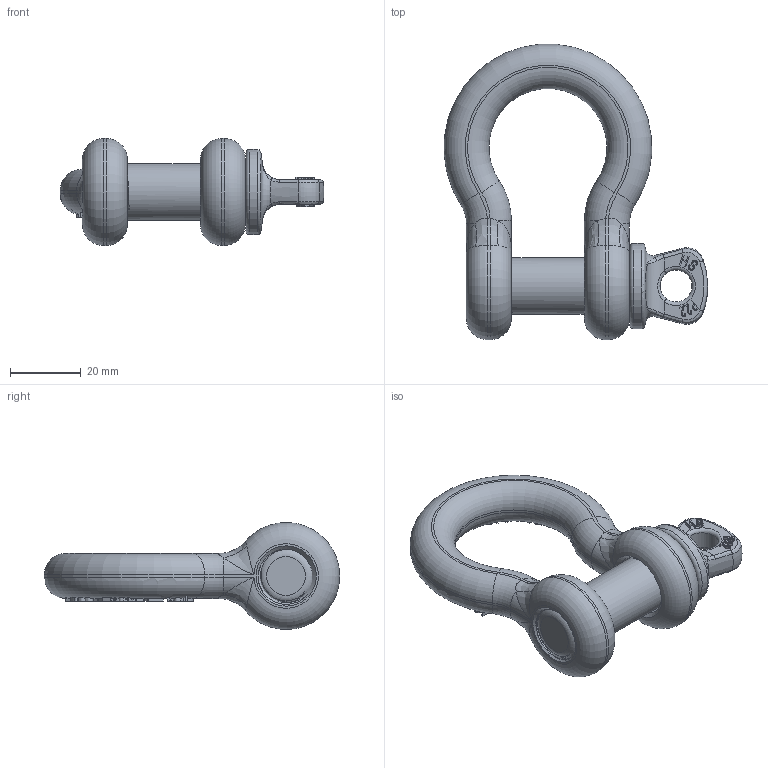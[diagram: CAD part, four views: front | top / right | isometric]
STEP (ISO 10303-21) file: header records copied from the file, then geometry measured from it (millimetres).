
FILE_DESCRIPTION(/* description */ (''),/* implementation_level */ '2;1');
FILE_NAME(/* name */ 'G-209-1-2.stp',/* time_stamp */ '2025-04-08T08:20:12+08:00',/* author */ (''),/* organization */ (''),/* preprocessor_version */ 'ST-DEVELOPER v16',/* originating_system */ 'SIEMENS PLM Software NX 10.0',/* authorisation */ '');
FILE_SCHEMA (('AP203_CONFIGURATION_CONTROLLED_3D_DESIGN_OF_MECHANICAL_PARTS_AND_ASSEMBLIES_MIM_LF { 1 0 10303 403 2 1 2}'));
Length unit declared in the file: millimetre
Products named in the file (1): Admi20FC52B4dhpu
Bounding box: 74.44 x 83.34 x 30.2 mm (x, y, z)
Volume: 39587.8 mm3; surface area: 14553.8 mm2
Topology: 2 solids, 2 shells, 559 faces, 1545 edges, 997 vertices
Faces by surface type: plane 230, extrusion 156, cylinder 67, bspline 60, torus 35, cone 10, sphere 1
Full cylindrical faces by diameter (mm): 9 x1, 16 x5, 17 x1, 24 x1
Entity records: 23788 total; most frequent: CARTESIAN_POINT 11275, ORIENTED_EDGE 3012, DIRECTION 1807, EDGE_CURVE 1506, VERTEX_POINT 979, B_SPLINE_CURVE_WITH_KNOTS 934, VECTOR 639, AXIS2_PLACEMENT_3D 584
